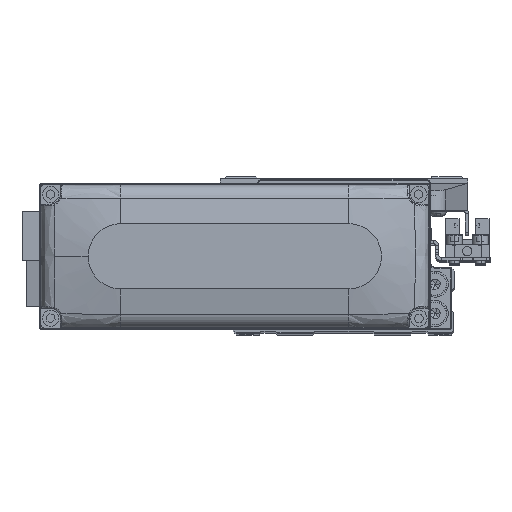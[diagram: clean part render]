
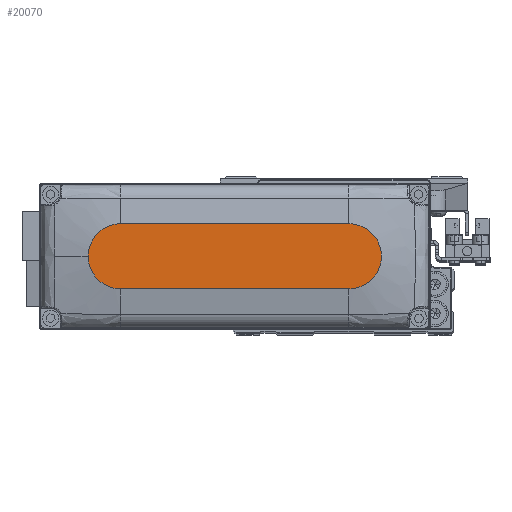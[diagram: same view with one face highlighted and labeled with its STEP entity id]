
A CAD part, top view. The second image highlights one B-rep face of the part: STEP entity #20070.
In plain terms, the highlighted planar face has unit normal (0, 0, 1).
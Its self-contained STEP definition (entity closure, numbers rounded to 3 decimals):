
#465 = VERTEX_POINT ( 'NONE', #28012 ) ;
#891 = CARTESIAN_POINT ( 'NONE',  ( -35., 10., 28. ) ) ;
#1029 = EDGE_CURVE ( 'NONE', #465, #13185, #10174, .T. ) ;
#1740 = CIRCLE ( 'NONE', #26215, 10. ) ;
#2660 = DIRECTION ( 'NONE',  ( 0., 0., 1. ) ) ;
#3557 = CARTESIAN_POINT ( 'NONE',  ( 35., 0., 28. ) ) ;
#4169 = VECTOR ( 'NONE', #7160, 1000. ) ;
#6045 = DIRECTION ( 'NONE',  ( 0., 0., 1. ) ) ;
#7071 = CARTESIAN_POINT ( 'NONE',  ( 0., 0., 28. ) ) ;
#7160 = DIRECTION ( 'NONE',  ( -1., 0., 0. ) ) ;
#10174 = CIRCLE ( 'NONE', #29030, 10. ) ;
#10599 = VERTEX_POINT ( 'NONE', #29498 ) ;
#11508 = AXIS2_PLACEMENT_3D ( 'NONE', #3557, #16935, #30256 ) ;
#11625 = EDGE_CURVE ( 'NONE', #13185, #15185, #30399, .T. ) ;
#13185 = VERTEX_POINT ( 'NONE', #17493 ) ;
#13998 = LINE ( 'NONE', #27354, #25138 ) ;
#15185 = VERTEX_POINT ( 'NONE', #20464 ) ;
#16015 = DIRECTION ( 'NONE',  ( 1., 0., 0. ) ) ;
#16935 = DIRECTION ( 'NONE',  ( 0., 0., 1. ) ) ;
#17493 = CARTESIAN_POINT ( 'NONE',  ( 45., 0., 28. ) ) ;
#19426 = DIRECTION ( 'NONE',  ( 1., 0., 0. ) ) ;
#19708 = EDGE_LOOP ( 'NONE', ( #37748, #27452, #19864, #34536, #22172 ) ) ;
#19864 = ORIENTED_EDGE ( 'NONE', *, *, #23227, .T. ) ;
#20070 = ADVANCED_FACE ( 'NONE', ( #23730 ), #37031, .T. ) ;
#20458 = DIRECTION ( 'NONE',  ( 0., 0., 1. ) ) ;
#20464 = CARTESIAN_POINT ( 'NONE',  ( 35., 10., 28. ) ) ;
#22172 = ORIENTED_EDGE ( 'NONE', *, *, #11625, .T. ) ;
#23227 = EDGE_CURVE ( 'NONE', #10599, #465, #13998, .T. ) ;
#23730 = FACE_OUTER_BOUND ( 'NONE', #19708, .T. ) ;
#23813 = LINE ( 'NONE', #37112, #4169 ) ;
#24352 = EDGE_CURVE ( 'NONE', #42635, #10599, #1740, .T. ) ;
#25138 = VECTOR ( 'NONE', #40635, 1000. ) ;
#26215 = AXIS2_PLACEMENT_3D ( 'NONE', #32612, #2660, #16015 ) ;
#27354 = CARTESIAN_POINT ( 'NONE',  ( -35., -10., 28. ) ) ;
#27452 = ORIENTED_EDGE ( 'NONE', *, *, #24352, .T. ) ;
#28012 = CARTESIAN_POINT ( 'NONE',  ( 35., -10., 28. ) ) ;
#29030 = AXIS2_PLACEMENT_3D ( 'NONE', #36007, #6045, #19426 ) ;
#29242 = EDGE_CURVE ( 'NONE', #15185, #42635, #23813, .T. ) ;
#29498 = CARTESIAN_POINT ( 'NONE',  ( -35., -10., 28. ) ) ;
#29914 = AXIS2_PLACEMENT_3D ( 'NONE', #7071, #20458, #33765 ) ;
#30256 = DIRECTION ( 'NONE',  ( 1., 0., 0. ) ) ;
#30399 = CIRCLE ( 'NONE', #11508, 10. ) ;
#32612 = CARTESIAN_POINT ( 'NONE',  ( -35., 0., 28. ) ) ;
#33765 = DIRECTION ( 'NONE',  ( 1., 0., 0. ) ) ;
#34536 = ORIENTED_EDGE ( 'NONE', *, *, #1029, .T. ) ;
#36007 = CARTESIAN_POINT ( 'NONE',  ( 35., 0., 28. ) ) ;
#37031 = PLANE ( 'NONE',  #29914 ) ;
#37112 = CARTESIAN_POINT ( 'NONE',  ( -35., 10., 28. ) ) ;
#37748 = ORIENTED_EDGE ( 'NONE', *, *, #29242, .T. ) ;
#40635 = DIRECTION ( 'NONE',  ( 1., 0., 0. ) ) ;
#42635 = VERTEX_POINT ( 'NONE', #891 ) ;
